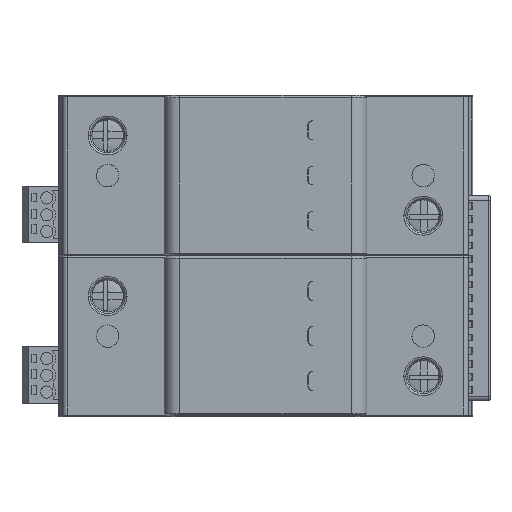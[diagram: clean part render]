
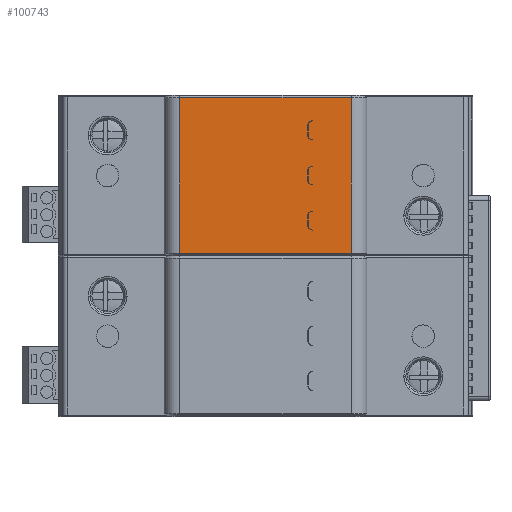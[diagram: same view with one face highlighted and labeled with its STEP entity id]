
A CAD part, top view. The second image highlights one B-rep face of the part: STEP entity #100743.
In plain terms, the highlighted planar face has unit normal (0, 0, 1).
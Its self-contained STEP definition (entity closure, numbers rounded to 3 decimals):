
#23471=DIRECTION('',(0.,1.,0.));
#23472=VECTOR('',#23471,34.5);
#23473=CARTESIAN_POINT('',(26.,36.15,31.2));
#23474=LINE('',#23473,#23472);
#23479=CARTESIAN_POINT('',(55.45,42.3,31.2));
#23480=DIRECTION('',(0.,0.,1.));
#23481=DIRECTION('',(-1.,0.,0.));
#23482=AXIS2_PLACEMENT_3D('',#23479,#23480,#23481);
#23484=DIRECTION('',(0.,-1.,0.));
#23485=VECTOR('',#23484,2.2);
#23486=CARTESIAN_POINT('',(54.45,44.5,31.2));
#23487=LINE('',#23486,#23485);
#23488=CARTESIAN_POINT('',(55.45,44.5,31.2));
#23489=DIRECTION('',(0.,0.,1.));
#23490=DIRECTION('',(0.,1.,0.));
#23491=AXIS2_PLACEMENT_3D('',#23488,#23489,#23490);
#23493=CARTESIAN_POINT('',(55.4,44.5,31.2));
#23494=DIRECTION('',(0.,0.,-1.));
#23495=DIRECTION('',(-1.,0.,0.));
#23496=AXIS2_PLACEMENT_3D('',#23493,#23494,#23495);
#23498=CARTESIAN_POINT('',(55.4,42.3,31.2));
#23499=DIRECTION('',(0.,0.,-1.));
#23500=DIRECTION('',(0.,-1.,0.));
#23501=AXIS2_PLACEMENT_3D('',#23498,#23499,#23500);
#23503=CARTESIAN_POINT('',(55.45,52.3,31.2));
#23504=DIRECTION('',(0.,0.,1.));
#23505=DIRECTION('',(-1.,0.,0.));
#23506=AXIS2_PLACEMENT_3D('',#23503,#23504,#23505);
#23508=DIRECTION('',(0.,-1.,0.));
#23509=VECTOR('',#23508,2.2);
#23510=CARTESIAN_POINT('',(54.45,54.5,31.2));
#23511=LINE('',#23510,#23509);
#23512=CARTESIAN_POINT('',(55.45,54.5,31.2));
#23513=DIRECTION('',(0.,0.,1.));
#23514=DIRECTION('',(0.,1.,0.));
#23515=AXIS2_PLACEMENT_3D('',#23512,#23513,#23514);
#23517=CARTESIAN_POINT('',(55.4,54.5,31.2));
#23518=DIRECTION('',(0.,0.,-1.));
#23519=DIRECTION('',(-1.,0.,0.));
#23520=AXIS2_PLACEMENT_3D('',#23517,#23518,#23519);
#23522=CARTESIAN_POINT('',(55.4,52.3,31.2));
#23523=DIRECTION('',(0.,0.,-1.));
#23524=DIRECTION('',(0.,-1.,0.));
#23525=AXIS2_PLACEMENT_3D('',#23522,#23523,#23524);
#23527=CARTESIAN_POINT('',(55.45,62.3,31.2));
#23528=DIRECTION('',(0.,0.,1.));
#23529=DIRECTION('',(-1.,0.,0.));
#23530=AXIS2_PLACEMENT_3D('',#23527,#23528,#23529);
#23532=DIRECTION('',(0.,-1.,0.));
#23533=VECTOR('',#23532,2.2);
#23534=CARTESIAN_POINT('',(54.45,64.5,31.2));
#23535=LINE('',#23534,#23533);
#23536=CARTESIAN_POINT('',(55.45,64.5,31.2));
#23537=DIRECTION('',(0.,0.,1.));
#23538=DIRECTION('',(0.,1.,0.));
#23539=AXIS2_PLACEMENT_3D('',#23536,#23537,#23538);
#23541=CARTESIAN_POINT('',(55.4,64.5,31.2));
#23542=DIRECTION('',(0.,0.,-1.));
#23543=DIRECTION('',(-1.,0.,0.));
#23544=AXIS2_PLACEMENT_3D('',#23541,#23542,#23543);
#23546=CARTESIAN_POINT('',(55.4,62.3,31.2));
#23547=DIRECTION('',(0.,0.,-1.));
#23548=DIRECTION('',(0.,-1.,0.));
#23549=AXIS2_PLACEMENT_3D('',#23546,#23547,#23548);
#23555=DIRECTION('',(0.,-1.,0.));
#23556=VECTOR('',#23555,34.5);
#23557=CARTESIAN_POINT('',(64.,70.65,31.2));
#23558=LINE('',#23557,#23556);
#24064=DIRECTION('',(-1.,0.,0.));
#24065=VECTOR('',#24064,38.);
#24066=CARTESIAN_POINT('',(64.,36.15,31.2));
#24067=LINE('',#24066,#24065);
#30689=DIRECTION('',(1.,0.,0.));
#30690=VECTOR('',#30689,38.);
#30691=CARTESIAN_POINT('',(26.,70.65,31.2));
#30692=LINE('',#30691,#30690);
#31191=DIRECTION('',(1.,0.,0.));
#31192=VECTOR('',#31191,0.05);
#31193=CARTESIAN_POINT('',(55.4,41.3,31.2));
#31194=LINE('',#31193,#31192);
#33266=DIRECTION('',(0.,-1.,0.));
#33267=VECTOR('',#33266,2.2);
#33268=CARTESIAN_POINT('',(54.4,54.5,31.2));
#33269=LINE('',#33268,#33267);
#33287=DIRECTION('',(1.,0.,0.));
#33288=VECTOR('',#33287,0.05);
#33289=CARTESIAN_POINT('',(55.4,51.3,31.2));
#33290=LINE('',#33289,#33288);
#33333=DIRECTION('',(-1.,0.,0.));
#33334=VECTOR('',#33333,0.05);
#33335=CARTESIAN_POINT('',(55.45,55.5,31.2));
#33336=LINE('',#33335,#33334);
#33542=DIRECTION('',(0.,-1.,0.));
#33543=VECTOR('',#33542,2.2);
#33544=CARTESIAN_POINT('',(54.4,64.5,31.2));
#33545=LINE('',#33544,#33543);
#33563=DIRECTION('',(1.,0.,0.));
#33564=VECTOR('',#33563,0.05);
#33565=CARTESIAN_POINT('',(55.4,61.3,31.2));
#33566=LINE('',#33565,#33564);
#33609=DIRECTION('',(-1.,0.,0.));
#33610=VECTOR('',#33609,0.05);
#33611=CARTESIAN_POINT('',(55.45,65.5,31.2));
#33612=LINE('',#33611,#33610);
#33819=DIRECTION('',(0.,-1.,0.));
#33820=VECTOR('',#33819,2.2);
#33821=CARTESIAN_POINT('',(54.4,44.5,31.2));
#33822=LINE('',#33821,#33820);
#33844=DIRECTION('',(-1.,0.,0.));
#33845=VECTOR('',#33844,0.05);
#33846=CARTESIAN_POINT('',(55.45,45.5,31.2));
#33847=LINE('',#33846,#33845);
#69506=CARTESIAN_POINT('',(55.4,51.3,31.2));
#69507=CARTESIAN_POINT('',(54.4,52.3,31.2));
#69508=VERTEX_POINT('',#69506);
#69509=VERTEX_POINT('',#69507);
#69510=CARTESIAN_POINT('',(54.4,54.5,31.2));
#69511=VERTEX_POINT('',#69510);
#69512=CARTESIAN_POINT('',(55.4,55.5,31.2));
#69513=VERTEX_POINT('',#69512);
#69514=CARTESIAN_POINT('',(55.4,61.3,31.2));
#69515=CARTESIAN_POINT('',(54.4,62.3,31.2));
#69516=VERTEX_POINT('',#69514);
#69517=VERTEX_POINT('',#69515);
#69518=CARTESIAN_POINT('',(54.4,64.5,31.2));
#69519=VERTEX_POINT('',#69518);
#69520=CARTESIAN_POINT('',(55.4,65.5,31.2));
#69521=VERTEX_POINT('',#69520);
#69522=CARTESIAN_POINT('',(55.4,41.3,31.2));
#69523=CARTESIAN_POINT('',(54.4,42.3,31.2));
#69524=VERTEX_POINT('',#69522);
#69525=VERTEX_POINT('',#69523);
#69526=CARTESIAN_POINT('',(54.4,44.5,31.2));
#69527=VERTEX_POINT('',#69526);
#69528=CARTESIAN_POINT('',(55.4,45.5,31.2));
#69529=VERTEX_POINT('',#69528);
#69530=CARTESIAN_POINT('',(64.,70.65,31.2));
#69531=CARTESIAN_POINT('',(64.,36.15,31.2));
#69532=VERTEX_POINT('',#69530);
#69533=VERTEX_POINT('',#69531);
#69534=CARTESIAN_POINT('',(26.,70.65,31.2));
#69535=VERTEX_POINT('',#69534);
#69536=CARTESIAN_POINT('',(26.,36.15,31.2));
#69537=VERTEX_POINT('',#69536);
#71107=CARTESIAN_POINT('',(54.45,44.5,31.2));
#71108=CARTESIAN_POINT('',(54.45,42.3,31.2));
#71109=VERTEX_POINT('',#71107);
#71110=VERTEX_POINT('',#71108);
#71127=CARTESIAN_POINT('',(55.45,45.5,31.2));
#71128=VERTEX_POINT('',#71127);
#71129=CARTESIAN_POINT('',(55.45,41.3,31.2));
#71130=VERTEX_POINT('',#71129);
#71139=CARTESIAN_POINT('',(54.45,54.5,31.2));
#71140=CARTESIAN_POINT('',(54.45,52.3,31.2));
#71141=VERTEX_POINT('',#71139);
#71142=VERTEX_POINT('',#71140);
#71159=CARTESIAN_POINT('',(55.45,55.5,31.2));
#71160=VERTEX_POINT('',#71159);
#71161=CARTESIAN_POINT('',(55.45,51.3,31.2));
#71162=VERTEX_POINT('',#71161);
#71171=CARTESIAN_POINT('',(54.45,64.5,31.2));
#71172=CARTESIAN_POINT('',(54.45,62.3,31.2));
#71173=VERTEX_POINT('',#71171);
#71174=VERTEX_POINT('',#71172);
#71191=CARTESIAN_POINT('',(55.45,65.5,31.2));
#71192=VERTEX_POINT('',#71191);
#71193=CARTESIAN_POINT('',(55.45,61.3,31.2));
#71194=VERTEX_POINT('',#71193);
#100675=CARTESIAN_POINT('',(45.,53.4,31.2));
#100676=DIRECTION('',(0.,0.,1.));
#100677=DIRECTION('',(1.,0.,0.));
#100678=AXIS2_PLACEMENT_3D('',#100675,#100676,#100677);
#100679=PLANE('',#100678);
#100681=ORIENTED_EDGE('',*,*,#100680,.T.);
#100683=ORIENTED_EDGE('',*,*,#100682,.T.);
#100684=ORIENTED_EDGE('',*,*,#100665,.T.);
#100686=ORIENTED_EDGE('',*,*,#100685,.T.);
#100687=EDGE_LOOP('',(#100681,#100683,#100684,#100686));
#100688=FACE_OUTER_BOUND('',#100687,.F.);
#100690=ORIENTED_EDGE('',*,*,#100689,.T.);
#100692=ORIENTED_EDGE('',*,*,#100691,.F.);
#100694=ORIENTED_EDGE('',*,*,#100693,.F.);
#100696=ORIENTED_EDGE('',*,*,#100695,.F.);
#100698=ORIENTED_EDGE('',*,*,#100697,.T.);
#100700=ORIENTED_EDGE('',*,*,#100699,.F.);
#100702=ORIENTED_EDGE('',*,*,#100701,.T.);
#100704=ORIENTED_EDGE('',*,*,#100703,.F.);
#100705=EDGE_LOOP('',(#100690,#100692,#100694,#100696,#100698,#100700,#100702,
#100704));
#100706=FACE_BOUND('',#100705,.F.);
#100708=ORIENTED_EDGE('',*,*,#100707,.T.);
#100710=ORIENTED_EDGE('',*,*,#100709,.F.);
#100712=ORIENTED_EDGE('',*,*,#100711,.F.);
#100714=ORIENTED_EDGE('',*,*,#100713,.F.);
#100716=ORIENTED_EDGE('',*,*,#100715,.T.);
#100718=ORIENTED_EDGE('',*,*,#100717,.F.);
#100720=ORIENTED_EDGE('',*,*,#100719,.T.);
#100722=ORIENTED_EDGE('',*,*,#100721,.F.);
#100723=EDGE_LOOP('',(#100708,#100710,#100712,#100714,#100716,#100718,#100720,
#100722));
#100724=FACE_BOUND('',#100723,.F.);
#100726=ORIENTED_EDGE('',*,*,#100725,.T.);
#100728=ORIENTED_EDGE('',*,*,#100727,.F.);
#100730=ORIENTED_EDGE('',*,*,#100729,.F.);
#100732=ORIENTED_EDGE('',*,*,#100731,.F.);
#100734=ORIENTED_EDGE('',*,*,#100733,.T.);
#100736=ORIENTED_EDGE('',*,*,#100735,.F.);
#100738=ORIENTED_EDGE('',*,*,#100737,.T.);
#100740=ORIENTED_EDGE('',*,*,#100739,.F.);
#100741=EDGE_LOOP('',(#100726,#100728,#100730,#100732,#100734,#100736,#100738,
#100740));
#100742=FACE_BOUND('',#100741,.F.);
#100743=ADVANCED_FACE('',(#100688,#100706,#100724,#100742),#100679,.T.);
#23483=CIRCLE('',#23482,1.);
#23492=CIRCLE('',#23491,1.);
#23497=CIRCLE('',#23496,1.);
#23502=CIRCLE('',#23501,1.);
#23507=CIRCLE('',#23506,1.);
#23516=CIRCLE('',#23515,1.);
#23521=CIRCLE('',#23520,1.);
#23526=CIRCLE('',#23525,1.);
#23531=CIRCLE('',#23530,1.);
#23540=CIRCLE('',#23539,1.);
#23545=CIRCLE('',#23544,1.);
#23550=CIRCLE('',#23549,1.);
#100665=EDGE_CURVE('',#69537,#69535,#23474,.T.);
#100680=EDGE_CURVE('',#69532,#69533,#23558,.T.);
#100682=EDGE_CURVE('',#69533,#69537,#24067,.T.);
#100685=EDGE_CURVE('',#69535,#69532,#30692,.T.);
#100689=EDGE_CURVE('',#69524,#71130,#31194,.T.);
#100691=EDGE_CURVE('',#71110,#71130,#23483,.T.);
#100693=EDGE_CURVE('',#71109,#71110,#23487,.T.);
#100695=EDGE_CURVE('',#71128,#71109,#23492,.T.);
#100697=EDGE_CURVE('',#71128,#69529,#33847,.T.);
#100699=EDGE_CURVE('',#69527,#69529,#23497,.T.);
#100701=EDGE_CURVE('',#69527,#69525,#33822,.T.);
#100703=EDGE_CURVE('',#69524,#69525,#23502,.T.);
#100707=EDGE_CURVE('',#69508,#71162,#33290,.T.);
#100709=EDGE_CURVE('',#71142,#71162,#23507,.T.);
#100711=EDGE_CURVE('',#71141,#71142,#23511,.T.);
#100713=EDGE_CURVE('',#71160,#71141,#23516,.T.);
#100715=EDGE_CURVE('',#71160,#69513,#33336,.T.);
#100717=EDGE_CURVE('',#69511,#69513,#23521,.T.);
#100719=EDGE_CURVE('',#69511,#69509,#33269,.T.);
#100721=EDGE_CURVE('',#69508,#69509,#23526,.T.);
#100725=EDGE_CURVE('',#69516,#71194,#33566,.T.);
#100727=EDGE_CURVE('',#71174,#71194,#23531,.T.);
#100729=EDGE_CURVE('',#71173,#71174,#23535,.T.);
#100731=EDGE_CURVE('',#71192,#71173,#23540,.T.);
#100733=EDGE_CURVE('',#71192,#69521,#33612,.T.);
#100735=EDGE_CURVE('',#69519,#69521,#23545,.T.);
#100737=EDGE_CURVE('',#69519,#69517,#33545,.T.);
#100739=EDGE_CURVE('',#69516,#69517,#23550,.T.);
